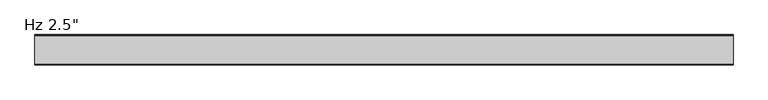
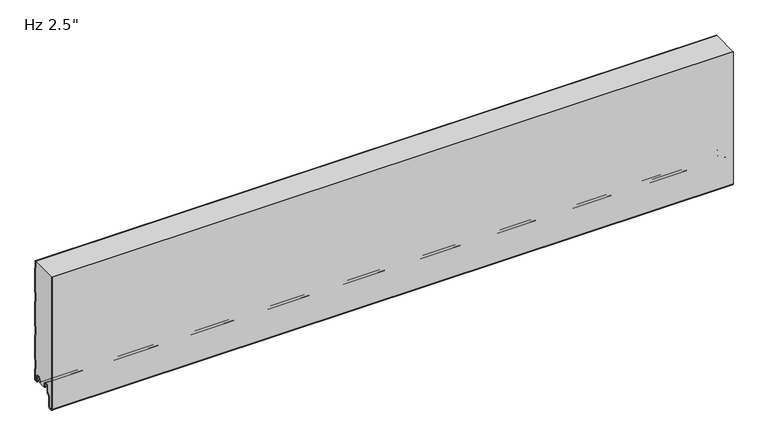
"""IFC4 building model written with IfcOpenShell, lengths in millimetres: plate geometry."""

from ifc_helpers import new_model, si_unit, point, frame, frame_2d, origin, place, context, project, spatial, polyline, circle_curve, trimmed, segment, composite_curve, outline, extrude, source, transform, mapped, element, save
from ifc_brep_helpers import plane_surface, cylinder_surface, revolved_surface, advanced_brep


def plate_86c60f66(model_context):
    return source(origin(), model_context, "Body", "SolidModel", [
        advanced_brep(
        [(-730.0, -17.0015159, 2.0313088), (-730.0, -18.0015191, 1.0313116), (-730.0, -19.0015105, 2.0313088), (-730.0, -19.0015105, 6.0315125), (-730.0, -18.0015159, 6.0315125), (-730.0, -18.0015159, 8.7237223), (-730.0, -14.7015202, 12.023718), (-730.0, -10.301529, 12.023718), (-730.0, -7.0015335, 8.7237225), (-730.0, -7.0015335, -1.6962564), (-730.0, -5.2315393, -3.4662506), (-730.0, -0.9999916, -3.4662506), (-730.0, -0.9999916, 21.034026), (-730.0, -2.2002307, 22.4196686), (-730.0, -2.2002307, 41.7948349), (-730.0, -1.0, 43.1804679), (-730.0, -1.0, 97.2338833), (-730.0, -2.2002307, 98.6195162), (-730.0, -2.2002307, 117.9946825), (-730.0, -1.0, 119.3803155), (-730.0, -1.0, 173.4337309), (-730.0, -2.2002307, 174.8193638), (-730.0, -2.2002307, 194.1945301), (-730.0, -1.0, 195.5801631), (-730.0, -1.0, 249.6335785), (-730.0, -2.2002307, 251.0192114), (-730.0, -2.2002307, 266.4), (-730.0, -1.2002307, 266.4), (-730.0, -1.2002307, 251.3920919), (-730.0, -0.3417885, 250.4010442), (-730.0, 0.0, 249.4844273), (-730.0, 0.0, 195.7293142), (-730.0, -0.3417885, 194.8126973), (-730.0, -1.2002307, 193.8216497), (-730.0, -1.2002307, 175.1922443), (-730.0, -0.3417885, 174.2011966), (-730.0, 0.0, 173.2845797), (-730.0, 0.0, 119.5294666), (-730.0, -0.3417885, 118.6128497), (-730.0, -1.2002307, 117.6218021), (-730.0, -1.2002307, 98.9923967), (-730.0, -0.3417885, 98.001349), (-730.0, 0.0, 97.0847321), (-730.0, 0.0, 43.329619), (-730.0, -0.3417885, 42.4130021), (-730.0, -1.2002307, 41.4219545), (-730.0, -1.2002307, 22.7925491), (-730.0, -0.3417885, 21.8015014), (-730.0, 0.0, 20.8847931), (-730.0, 8.4e-06, -3.0662545), (-730.0, -1.3999878, -4.4662506), (-730.0, -5.2315393, -4.4662506), (-730.0, -8.0015335, -1.6962564), (-730.0, -8.0015335, 8.7237225), (-730.0, -10.301529, 11.023718), (-730.0, -14.7015202, 11.023718), (-730.0, -17.0015159, 8.7237223), (730.0, -17.0015159, 2.0313088), (730.0, -17.0015159, 8.7237223), (730.0, -14.7015202, 11.023718), (730.0, -10.301529, 11.023718), (730.0, -8.0015335, 8.7237225), (730.0, -8.0015335, -1.6962564), (730.0, -5.2315393, -4.4662506), (730.0, -1.3999878, -4.4662506), (730.0, 8.4e-06, -3.0662545), (730.0, 8.4e-06, 20.8848845), (730.0, -0.3417885, 21.8015014), (730.0, -1.2002307, 22.7925491), (730.0, -1.2002307, 41.4219545), (730.0, -0.3417885, 42.4130021), (730.0, 0.0, 43.329619), (730.0, 0.0, 97.0847321), (730.0, -0.3417885, 98.001349), (730.0, -1.2002307, 98.9923967), (730.0, -1.2002307, 117.6218021), (730.0, -0.3417885, 118.6128497), (730.0, 0.0, 119.5294666), (730.0, 0.0, 173.2845797), (730.0, -0.3417885, 174.2011966), (730.0, -1.2002307, 175.1922443), (730.0, -1.2002307, 193.8216497), (730.0, -0.3417885, 194.8126973), (730.0, 0.0, 195.7293142), (730.0, 0.0, 249.4844273), (730.0, -0.3417885, 250.4010442), (730.0, -1.2002307, 251.3920919), (730.0, -1.2002307, 266.4), (730.0, -2.2002307, 266.4), (730.0, -2.2002307, 251.0192114), (730.0, -1.0, 249.6335785), (730.0, -1.0, 195.5801631), (730.0, -2.2002307, 194.1945301), (730.0, -2.2002307, 174.8193638), (730.0, -1.0, 173.4337309), (730.0, -1.0, 119.3803155), (730.0, -2.2002307, 117.9946825), (730.0, -2.2002307, 98.6195162), (730.0, -1.0, 97.2338833), (730.0, -1.0, 43.1804679), (730.0, -2.2002307, 41.7948349), (730.0, -2.2002307, 22.4196686), (730.0, -0.9999916, 21.034026), (730.0, -0.9999916, -3.4662506), (730.0, -5.2315393, -3.4662506), (730.0, -7.0015335, -1.6962564), (730.0, -7.0015335, 8.7237225), (730.0, -10.301529, 12.023718), (730.0, -14.7015202, 12.023718), (730.0, -18.0015159, 8.7237223), (730.0, -18.0015159, 6.0315125), (730.0, -19.0015105, 6.0315125), (730.0, -19.0015105, 2.0313088), (730.0, -18.0015192, 1.0313116)],
        [
            (0, 1, circle_curve(frame((-730.0, -18.0015132, 2.0313088), z_axis=(-1.0, 0.0, 0.0), x_axis=(0.0, 0.0, 1.0)), 0.9999973)),
            (1, 2, circle_curve(frame((-730.0, -18.0015133, 2.0313088), z_axis=(-1.0, 0.0, 0.0), x_axis=(0.0, 0.0, 1.0)), 0.9999972)),
            (2, 3),
            (3, 4),
            (4, 5),
            (5, 6, circle_curve(frame((-730.0, -14.7015202, 8.7237223), z_axis=(-1.0, 0.0, 0.0), x_axis=(0.0, 0.0, 1.0)), 3.2999957)),
            (6, 7),
            (7, 8, circle_curve(frame((-730.0, -10.301529, 8.7237225), z_axis=(-1.0, 0.0, 0.0), x_axis=(0.0, 0.0, 1.0)), 3.2999955)),
            (8, 9),
            (9, 10, circle_curve(frame((-730.0, -5.2315393, -1.6962564), z_axis=(1.0, 0.0, 0.0), x_axis=(0.0, 0.0, 1.0)), 1.7699942)),
            (10, 11),
            (11, 12),
            (12, 13),
            (13, 14),
            (14, 15),
            (15, 16),
            (16, 17),
            (17, 18),
            (18, 19),
            (19, 20),
            (20, 21),
            (21, 22),
            (22, 23),
            (23, 24),
            (24, 25),
            (25, 26),
            (26, 27),
            (27, 28),
            (28, 29),
            (29, 30, circle_curve(frame((-730.0, -1.3999972, 249.4844273), z_axis=(-1.0, 0.0, 0.0), x_axis=(0.0, 0.0, 1.0)), 1.3999972)),
            (30, 31),
            (31, 32, circle_curve(frame((-730.0, -1.3999972, 195.7293142), z_axis=(-1.0, 0.0, 0.0), x_axis=(0.0, 0.0, 1.0)), 1.3999972)),
            (32, 33),
            (33, 34),
            (34, 35),
            (35, 36, circle_curve(frame((-730.0, -1.3999972, 173.2845797), z_axis=(-1.0, 0.0, 0.0), x_axis=(0.0, 0.0, 1.0)), 1.3999972)),
            (36, 37),
            (37, 38, circle_curve(frame((-730.0, -1.3999972, 119.5294666), z_axis=(-1.0, 0.0, 0.0), x_axis=(0.0, 0.0, 1.0)), 1.3999972)),
            (38, 39),
            (39, 40),
            (40, 41),
            (41, 42, circle_curve(frame((-730.0, -1.3999972, 97.0847321), z_axis=(-1.0, 0.0, 0.0), x_axis=(0.0, 0.0, 1.0)), 1.3999972)),
            (42, 43),
            (43, 44, circle_curve(frame((-730.0, -1.3999972, 43.329619), z_axis=(-1.0, 0.0, 0.0), x_axis=(0.0, 0.0, 1.0)), 1.3999972)),
            (44, 45),
            (45, 46),
            (46, 47),
            (47, 48, circle_curve(frame((-730.0, -1.3999972, 20.8848845), z_axis=(-1.0, 0.0, 0.0), x_axis=(0.0, 0.0, 1.0)), 1.3999972)),
            (48, 49),
            (49, 50, circle_curve(frame((-730.0, -1.3999878, -3.0662545), z_axis=(-1.0, 0.0, 0.0), x_axis=(0.0, 0.0, 1.0)), 1.3999962)),
            (50, 51),
            (51, 52, circle_curve(frame((-730.0, -5.2315393, -1.6962564), z_axis=(-1.0, 0.0, 0.0), x_axis=(0.0, 0.0, 1.0)), 2.7699942)),
            (52, 53),
            (53, 54, circle_curve(frame((-730.0, -10.301529, 8.7237225), z_axis=(1.0, 0.0, 0.0), x_axis=(0.0, 0.0, 1.0)), 2.2999955)),
            (54, 55),
            (55, 56, circle_curve(frame((-730.0, -14.7015202, 8.7237223), z_axis=(1.0, 0.0, 0.0), x_axis=(0.0, 0.0, 1.0)), 2.2999957)),
            (56, 0),
            (57, 58),
            (58, 59, circle_curve(frame((730.0, -14.7015202, 8.7237223), z_axis=(-1.0, 0.0, 0.0), x_axis=(0.0, 0.0, 1.0)), 2.2999957)),
            (59, 60),
            (60, 61, circle_curve(frame((730.0, -10.301529, 8.7237225), z_axis=(-1.0, 0.0, 0.0), x_axis=(0.0, 0.0, 1.0)), 2.2999955)),
            (61, 62),
            (62, 63, circle_curve(frame((730.0, -5.2315393, -1.6962564), z_axis=(1.0, 0.0, 0.0), x_axis=(0.0, 0.0, 1.0)), 2.7699942)),
            (63, 64),
            (64, 65, circle_curve(frame((730.0, -1.3999878, -3.0662545), z_axis=(1.0, 0.0, 0.0), x_axis=(0.0, 0.0, 1.0)), 1.3999962)),
            (65, 66),
            (66, 67, circle_curve(frame((730.0, -1.3999972, 20.8848845), z_axis=(1.0, 0.0, 0.0), x_axis=(0.0, 0.0, 1.0)), 1.3999972)),
            (67, 68),
            (68, 69),
            (69, 70),
            (70, 71, circle_curve(frame((730.0, -1.3999972, 43.329619), z_axis=(1.0, 0.0, 0.0), x_axis=(0.0, 0.0, 1.0)), 1.3999972)),
            (71, 72),
            (72, 73, circle_curve(frame((730.0, -1.3999972, 97.0847321), z_axis=(1.0, 0.0, 0.0), x_axis=(0.0, 0.0, 1.0)), 1.3999972)),
            (73, 74),
            (74, 75),
            (75, 76),
            (76, 77, circle_curve(frame((730.0, -1.3999972, 119.5294666), z_axis=(1.0, 0.0, 0.0), x_axis=(0.0, 0.0, 1.0)), 1.3999972)),
            (77, 78),
            (78, 79, circle_curve(frame((730.0, -1.3999972, 173.2845797), z_axis=(1.0, 0.0, 0.0), x_axis=(0.0, 0.0, 1.0)), 1.3999972)),
            (79, 80),
            (80, 81),
            (81, 82),
            (82, 83, circle_curve(frame((730.0, -1.3999972, 195.7293142), z_axis=(1.0, 0.0, 0.0), x_axis=(0.0, 0.0, 1.0)), 1.3999972)),
            (83, 84),
            (84, 85, circle_curve(frame((730.0, -1.3999972, 249.4844273), z_axis=(1.0, 0.0, 0.0), x_axis=(0.0, 0.0, 1.0)), 1.3999972)),
            (85, 86),
            (86, 87),
            (87, 88),
            (88, 89),
            (89, 90),
            (90, 91),
            (91, 92),
            (92, 93),
            (93, 94),
            (94, 95),
            (95, 96),
            (96, 97),
            (97, 98),
            (98, 99),
            (99, 100),
            (100, 101),
            (101, 102),
            (102, 103),
            (103, 104),
            (104, 105, circle_curve(frame((730.0, -5.2315393, -1.6962564), z_axis=(-1.0, 0.0, 0.0), x_axis=(0.0, 0.0, 1.0)), 1.7699942)),
            (105, 106),
            (106, 107, circle_curve(frame((730.0, -10.301529, 8.7237225), z_axis=(1.0, 0.0, 0.0), x_axis=(0.0, 0.0, 1.0)), 3.2999955)),
            (107, 108),
            (108, 109, circle_curve(frame((730.0, -14.7015202, 8.7237223), z_axis=(1.0, 0.0, 0.0), x_axis=(0.0, 0.0, 1.0)), 3.2999957)),
            (109, 110),
            (110, 111),
            (111, 112),
            (112, 113, circle_curve(frame((730.0, -18.0015133, 2.0313088), z_axis=(1.0, 0.0, 0.0), x_axis=(0.0, 0.0, 1.0)), 0.9999972)),
            (113, 57, circle_curve(frame((730.0, -18.0015132, 2.0313088), z_axis=(1.0, 0.0, 0.0), x_axis=(0.0, 0.0, 1.0)), 0.9999973)),
            (26, 88),
            (87, 27),
            (56, 58),
            (57, 0),
            (55, 59),
            (54, 60),
            (53, 61),
            (52, 62),
            (51, 63),
            (50, 64),
            (49, 65),
            (48, 66),
            (47, 67),
            (46, 68),
            (45, 69),
            (44, 70),
            (43, 71),
            (42, 72),
            (41, 73),
            (40, 74),
            (39, 75),
            (38, 76),
            (37, 77),
            (36, 78),
            (19, 95),
            (94, 20),
            (18, 96),
            (17, 97),
            (16, 98),
            (15, 99),
            (14, 100),
            (13, 101),
            (12, 102),
            (11, 103),
            (10, 104),
            (9, 105),
            (8, 106),
            (7, 107),
            (6, 108),
            (5, 109),
            (4, 110),
            (3, 111),
            (2, 112),
            (1, 113),
            (35, 79),
            (34, 80),
            (33, 81),
            (32, 82),
            (31, 83),
            (30, 84),
            (29, 85),
            (28, 86),
            (25, 89),
            (24, 90),
            (23, 91),
            (22, 92),
            (21, 93),
        ],
        [
            plane_surface(frame((-730.0, 0.0, 533.4), z_axis=(-1.0, 0.0, 0.0), x_axis=(0.0, 1.0, 0.0))),
            plane_surface(frame((730.0, 0.0, 533.4), z_axis=(1.0, 0.0, 0.0), x_axis=(0.0, 1.0, 0.0))),
            plane_surface(frame((730.0, 10.0, 266.4), z_axis=(0.0, 0.0, 1.0), x_axis=(-1.0, 0.0, 0.0))),
            plane_surface(frame((-730.0, -17.0015159, 2.0313088), z_axis=(0.0, 1.0, 0.0), x_axis=(1.0, 0.0, 0.0))),
            revolved_surface(polyline([(730.0, -14.7015202, 11.023718), (-730.0, -14.7015202, 11.023718)]), (-730.0, -14.7015202, 8.7237223), (1.0, 0.0, 0.0)),
            plane_surface(frame((-730.0, -14.7015202, 11.023718), z_axis=(0.0, 0.0, -1.0), x_axis=(1.0, 0.0, 0.0))),
            revolved_surface(polyline([(730.0, -10.301529, 11.023717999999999), (-730.0, -10.301529, 11.023717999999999)]), (-730.0, -10.301529, 8.7237225), (1.0, 0.0, 0.0)),
            plane_surface(frame((-730.0, -8.0015335, 8.7237225), z_axis=(0.0, -1.0, 0.0), x_axis=(1.0, 0.0, 0.0))),
            cylinder_surface(frame((-730.0, -5.2315393, -1.6962564), z_axis=(-1.0, 0.0, 0.0), x_axis=(0.0, 0.0, 1.0)), 2.7699942),
            plane_surface(frame((-730.0, -5.2315393, -4.4662506), z_axis=(0.0, 0.0, -1.0), x_axis=(1.0, 0.0, 0.0))),
            cylinder_surface(frame((-730.0, -1.3999878, -3.0662545), z_axis=(-1.0, 0.0, 0.0), x_axis=(0.0, 0.0, 1.0)), 1.3999962),
            plane_surface(frame((-730.0, 8.4e-06, -3.0662545), z_axis=(0.0, 1.0, 0.0), x_axis=(1.0, 0.0, 0.0))),
            cylinder_surface(frame((-730.0, -1.3999972, 20.8848845), z_axis=(-1.0, 0.0, 0.0), x_axis=(0.0, 0.0, 1.0)), 1.3999972),
            plane_surface(frame((-730.0, -0.3417885, 21.8015014), z_axis=(0.0, 0.755864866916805, 0.6547276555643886), x_axis=(1.0, 0.0, 0.0))),
            plane_surface(frame((-730.0, -1.2002307, 32.1072518), z_axis=(0.0, 1.0, 0.0), x_axis=(1.0, 0.0, 0.0))),
            plane_surface(frame((-730.0, -1.2002307, 41.4219545), z_axis=(0.0, 0.755864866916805, -0.6547276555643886), x_axis=(1.0, 0.0, 0.0))),
            cylinder_surface(frame((-730.0, -1.3999972, 43.329619), z_axis=(-1.0, 0.0, 0.0), x_axis=(0.0, 0.0, 1.0)), 1.3999972),
            plane_surface(frame((-730.0, 0.0, 43.329619), z_axis=(0.0, 1.0, 0.0), x_axis=(1.0, 0.0, 0.0))),
            cylinder_surface(frame((-730.0, -1.3999972, 97.0847321), z_axis=(-1.0, 0.0, 0.0), x_axis=(0.0, 0.0, 1.0)), 1.3999972),
            plane_surface(frame((-730.0, -0.3417885, 98.001349), z_axis=(0.0, 0.755864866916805, 0.6547276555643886), x_axis=(1.0, 0.0, 0.0))),
            plane_surface(frame((-730.0, -1.2002307, 108.3070994), z_axis=(0.0, 1.0, 0.0), x_axis=(1.0, 0.0, 0.0))),
            plane_surface(frame((-730.0, -1.2002307, 117.6218021), z_axis=(0.0, 0.755864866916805, -0.6547276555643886), x_axis=(1.0, 0.0, 0.0))),
            cylinder_surface(frame((-730.0, -1.3999972, 119.5294666), z_axis=(-1.0, 0.0, 0.0), x_axis=(0.0, 0.0, 1.0)), 1.3999972),
            plane_surface(frame((-730.0, 0.0, 119.5294666), z_axis=(0.0, 1.0, 0.0), x_axis=(1.0, 0.0, 0.0))),
            plane_surface(frame((-730.0, -1.0, 173.4337309), z_axis=(0.0, -1.0, 0.0), x_axis=(1.0, 0.0, 0.0))),
            plane_surface(frame((-730.0, -1.0, 119.3803155), z_axis=(0.0, -0.755864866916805, 0.6547276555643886), x_axis=(1.0, 0.0, 0.0))),
            plane_surface(frame((-730.0, -2.2002307, 117.9946825), z_axis=(0.0, -1.0, 0.0), x_axis=(1.0, 0.0, 0.0))),
            plane_surface(frame((-730.0, -2.2002307, 98.6195162), z_axis=(0.0, -0.755864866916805, -0.6547276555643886), x_axis=(1.0, 0.0, 0.0))),
            plane_surface(frame((-730.0, -1.0, 97.2338833), z_axis=(0.0, -1.0, 0.0), x_axis=(1.0, 0.0, 0.0))),
            plane_surface(frame((-730.0, -1.0, 43.1804679), z_axis=(0.0, -0.755864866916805, 0.6547276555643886), x_axis=(1.0, 0.0, 0.0))),
            plane_surface(frame((-730.0, -2.2002307, 41.7948349), z_axis=(0.0, -1.0, 0.0), x_axis=(1.0, 0.0, 0.0))),
            plane_surface(frame((-730.0, -2.2002307, 22.4196686), z_axis=(0.0, -0.755864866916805, -0.6547276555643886), x_axis=(1.0, 0.0, 0.0))),
            plane_surface(frame((-730.0, -0.9999916, 21.034026), z_axis=(0.0, -1.0, 0.0), x_axis=(1.0, 0.0, 0.0))),
            plane_surface(frame((-730.0, -0.9999916, -3.4662506), z_axis=(0.0, 0.0, 1.0), x_axis=(1.0, 0.0, 0.0))),
            revolved_surface(polyline([(730.0, -5.2315393, 0.07373779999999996), (-730.0, -5.2315393, 0.07373779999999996)]), (-730.0, -5.2315393, -1.6962564), (1.0, 0.0, 0.0)),
            plane_surface(frame((-730.0, -7.0015335, -1.6962564), z_axis=(0.0, 1.0, 0.0), x_axis=(1.0, 0.0, 0.0))),
            cylinder_surface(frame((-730.0, -10.301529, 8.7237225), z_axis=(-1.0, 0.0, 0.0), x_axis=(0.0, 0.0, 1.0)), 3.2999955),
            plane_surface(frame((-730.0, -10.301529, 12.023718), z_axis=(0.0, 0.0, 1.0), x_axis=(1.0, 0.0, 0.0))),
            cylinder_surface(frame((-730.0, -14.7015202, 8.7237223), z_axis=(-1.0, 0.0, 0.0), x_axis=(0.0, 0.0, 1.0)), 3.2999957),
            plane_surface(frame((-730.0, -18.0015159, 8.7237223), z_axis=(0.0, -1.0, 0.0), x_axis=(1.0, 0.0, 0.0))),
            plane_surface(frame((-730.0, -18.0015159, 6.0315125), z_axis=(0.0, 0.0, 1.0), x_axis=(1.0, 0.0, 0.0))),
            plane_surface(frame((-730.0, -19.0015105, 6.0315125), z_axis=(0.0, -1.0, 0.0), x_axis=(1.0, 0.0, 0.0))),
            cylinder_surface(frame((-730.0, -18.0015133, 2.0313088), z_axis=(-1.0, 0.0, 0.0), x_axis=(0.0, 0.0, 1.0)), 0.9999972),
            cylinder_surface(frame((-730.0, -18.0015132, 2.0313088), z_axis=(-1.0, 0.0, 0.0), x_axis=(0.0, 0.0, 1.0)), 0.9999973),
            cylinder_surface(frame((-730.0, -1.3999972, 173.2845797), z_axis=(-1.0, 0.0, 0.0), x_axis=(0.0, 0.0, 1.0)), 1.3999972),
            plane_surface(frame((-730.0, -0.3417885, 174.2011966), z_axis=(0.0, 0.755864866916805, 0.6547276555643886), x_axis=(1.0, 0.0, 0.0))),
            plane_surface(frame((-730.0, -1.2002307, 184.506947), z_axis=(0.0, 1.0, 0.0), x_axis=(1.0, 0.0, 0.0))),
            plane_surface(frame((-730.0, -1.2002307, 193.8216497), z_axis=(0.0, 0.755864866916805, -0.6547276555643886), x_axis=(1.0, 0.0, 0.0))),
            cylinder_surface(frame((-730.0, -1.3999972, 195.7293142), z_axis=(-1.0, 0.0, 0.0), x_axis=(0.0, 0.0, 1.0)), 1.3999972),
            plane_surface(frame((-730.0, 0.0, 195.7293142), z_axis=(0.0, 1.0, 0.0), x_axis=(1.0, 0.0, 0.0))),
            cylinder_surface(frame((-730.0, -1.3999972, 249.4844273), z_axis=(-1.0, 0.0, 0.0), x_axis=(0.0, 0.0, 1.0)), 1.3999972),
            plane_surface(frame((-730.0, -0.3417885, 250.4010442), z_axis=(0.0, 0.755864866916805, 0.6547276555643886), x_axis=(1.0, 0.0, 0.0))),
            plane_surface(frame((-730.0, -1.2002307, 260.7067946), z_axis=(0.0, 1.0, 0.0), x_axis=(1.0, 0.0, 0.0))),
            plane_surface(frame((-730.0, -2.2002307, 270.3943777), z_axis=(0.0, -1.0, 0.0), x_axis=(1.0, 0.0, 0.0))),
            plane_surface(frame((-730.0, -2.2002307, 251.0192114), z_axis=(0.0, -0.755864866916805, -0.6547276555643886), x_axis=(1.0, 0.0, 0.0))),
            plane_surface(frame((-730.0, -1.0, 249.6335785), z_axis=(0.0, -1.0, 0.0), x_axis=(1.0, 0.0, 0.0))),
            plane_surface(frame((-730.0, -1.0, 195.5801631), z_axis=(0.0, -0.755864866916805, 0.6547276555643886), x_axis=(1.0, 0.0, 0.0))),
            plane_surface(frame((-730.0, -2.2002307, 194.1945301), z_axis=(0.0, -1.0, 0.0), x_axis=(1.0, 0.0, 0.0))),
            plane_surface(frame((-730.0, -2.2002307, 174.8193638), z_axis=(0.0, -0.755864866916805, -0.6547276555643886), x_axis=(1.0, 0.0, 0.0))),
        ],
        [
            (0, [[1, 2, 3, 4, 5, 6, 7, 8, 9, 10, 11, 12, 13, 14, 15, 16, 17, 18, 19, 20, 21, 22, 23, 24, 25, 26, 27, 28, 29, 30, 31, 32, 33, 34, 35, 36, 37, 38, 39, 40, 41, 42, 43, 44, 45, 46, 47, 48, 49, 50, 51, 52, 53, 54, 55, 56, 57]]),
            (1, [[58, 59, 60, 61, 62, 63, 64, 65, 66, 67, 68, 69, 70, 71, 72, 73, 74, 75, 76, 77, 78, 79, 80, 81, 82, 83, 84, 85, 86, 87, 88, 89, 90, 91, 92, 93, 94, 95, 96, 97, 98, 99, 100, 101, 102, 103, 104, 105, 106, 107, 108, 109, 110, 111, 112, 113, 114]]),
            (2, [[115, -88, 116, -27]]),
            (3, [[117, -58, 118, -57]]),
            (4, [[119, -59, -117, -56]]),
            (5, [[120, -60, -119, -55]]),
            (6, [[121, -61, -120, -54]]),
            (7, [[122, -62, -121, -53]]),
            (8, [[123, -63, -122, -52]]),
            (9, [[124, -64, -123, -51]]),
            (10, [[125, -65, -124, -50]]),
            (11, [[126, -66, -125, -49]]),
            (12, [[127, -67, -126, -48]]),
            (13, [[128, -68, -127, -47]]),
            (14, [[129, -69, -128, -46]]),
            (15, [[130, -70, -129, -45]]),
            (16, [[131, -71, -130, -44]]),
            (17, [[132, -72, -131, -43]]),
            (18, [[133, -73, -132, -42]]),
            (19, [[134, -74, -133, -41]]),
            (20, [[135, -75, -134, -40]]),
            (21, [[136, -76, -135, -39]]),
            (22, [[137, -77, -136, -38]]),
            (23, [[138, -78, -137, -37]]),
            (24, [[139, -95, 140, -20]]),
            (25, [[141, -96, -139, -19]]),
            (26, [[142, -97, -141, -18]]),
            (27, [[143, -98, -142, -17]]),
            (28, [[144, -99, -143, -16]]),
            (29, [[145, -100, -144, -15]]),
            (30, [[146, -101, -145, -14]]),
            (31, [[147, -102, -146, -13]]),
            (32, [[148, -103, -147, -12]]),
            (33, [[149, -104, -148, -11]]),
            (34, [[150, -105, -149, -10]]),
            (35, [[151, -106, -150, -9]]),
            (36, [[152, -107, -151, -8]]),
            (37, [[153, -108, -152, -7]]),
            (38, [[154, -109, -153, -6]]),
            (39, [[155, -110, -154, -5]]),
            (40, [[156, -111, -155, -4]]),
            (41, [[157, -112, -156, -3]]),
            (42, [[158, -113, -157, -2]]),
            (43, [[-118, -114, -158, -1]]),
            (44, [[159, -79, -138, -36]]),
            (45, [[160, -80, -159, -35]]),
            (46, [[161, -81, -160, -34]]),
            (47, [[162, -82, -161, -33]]),
            (48, [[163, -83, -162, -32]]),
            (49, [[164, -84, -163, -31]]),
            (50, [[165, -85, -164, -30]]),
            (51, [[166, -86, -165, -29]]),
            (52, [[-28, -116, -87, -166]]),
            (53, [[-89, -115, -26, 167]]),
            (54, [[168, -90, -167, -25]]),
            (55, [[169, -91, -168, -24]]),
            (56, [[170, -92, -169, -23]]),
            (57, [[171, -93, -170, -22]]),
            (58, [[-140, -94, -171, -21]]),
        ],
    ),
        extrude(outline(composite_curve([segment(trimmed(circle_curve(frame_2d((-59.9297607, -32.4521176)), 3.5702393), [point((-59.6184903, -36.008762))], [point((-63.5, -32.4521176))], False, "CARTESIAN"), True, "CONTINUOUS"), segment(polyline([(-63.5, -32.4521176), (-63.5, 266.4), (-62.4993606, 266.4), (-62.4993606, -32.509446)]), True, "CONTINUOUS"), segment(trimmed(circle_curve(frame_2d((-59.9297607, -32.4521176)), 2.5702393), [point((-62.4993606, -32.509446))], [point((-59.7056751, -35.0125699))], True, "CARTESIAN"), True, "CONTINUOUS"), segment(polyline([(-59.7056751, -35.0125699), (-54.7238542, -34.5765709)]), True, "CONTINUOUS"), segment(trimmed(circle_curve(frame_2d((-55.2052448, -31.9198392)), 2.6999926), [point((-54.7238542, -34.5765709))], [point((-52.5052522, -31.9198392))], True, "CARTESIAN"), True, "CONTINUOUS"), segment(polyline([(-52.5052522, -31.9198392), (-52.5052522, -9.8247096), (-47.0031811, -4.3226385)]), True, "CONTINUOUS"), segment(trimmed(circle_curve(frame_2d((-48.2052588, -3.1205608)), 1.6999946), [point((-47.0031811, -4.3226385))], [point((-46.5052642, -3.1205608))], True, "CARTESIAN"), True, "CONTINUOUS"), segment(polyline([(-46.5052642, -3.1205608), (-46.5052642, 8.6903283)]), True, "CONTINUOUS"), segment(trimmed(circle_curve(frame_2d((-43.1552689, 8.6903283)), 3.3499953), [point((-46.5052642, 8.6903283))], [point((-43.1552689, 12.0403236))], False, "CARTESIAN"), True, "CONTINUOUS"), segment(polyline([(-43.1552689, 12.0403236), (-38.7552777, 12.0403236)]), True, "CONTINUOUS"), segment(trimmed(circle_curve(frame_2d((-38.7552777, 8.6903283)), 3.3499953), [point((-38.7552777, 12.0403236))], [point((-35.4052824, 8.6903283))], False, "CARTESIAN"), True, "CONTINUOUS"), segment(polyline([(-35.4052824, 8.6903283), (-35.4052824, 5.9912173), (-34.0068035, 5.9912173), (-34.0068035, 2.2328239)]), True, "CONTINUOUS"), segment(trimmed(circle_curve(frame_2d((-35.2068002, 2.2313092)), 1.1999976), [point((-34.0068035, 2.2328239))], [point((-35.1762782, 1.0316999))], False, "CARTESIAN"), True, "CONTINUOUS"), segment(trimmed(circle_curve(frame_2d((-35.2068002, 2.2313092)), 1.1999976), [point((-35.1762782, 1.0316999))], [point((-36.4052824, 2.1710221))], False, "CARTESIAN"), True, "CONTINUOUS"), segment(polyline([(-36.4052824, 2.1710221), (-36.4052824, 8.6903283)]), True, "CONTINUOUS"), segment(trimmed(circle_curve(frame_2d((-38.7552777, 8.6903283)), 2.3499953), [point((-36.4052824, 8.6903283))], [point((-38.7552777, 11.0403236))], True, "CARTESIAN"), True, "CONTINUOUS"), segment(polyline([(-38.7552777, 11.0403236), (-43.1552689, 11.0403236)]), True, "CONTINUOUS"), segment(trimmed(circle_curve(frame_2d((-43.1552689, 8.6903283)), 2.3499953), [point((-43.1552689, 11.0403236))], [point((-45.5052642, 8.6903283))], True, "CARTESIAN"), True, "CONTINUOUS"), segment(polyline([(-45.5052642, 8.6903283), (-45.5052642, -3.1205608)]), True, "CONTINUOUS"), segment(trimmed(circle_curve(frame_2d((-48.2052588, -3.1205608)), 2.6999946), [point((-45.5052642, -3.1205608))], [point((-46.2960743, -5.0297453))], False, "CARTESIAN"), True, "CONTINUOUS"), segment(polyline([(-46.2960743, -5.0297453), (-51.1244918, -9.8581627)]), True, "CONTINUOUS"), segment(trimmed(circle_curve(frame_2d((-50.2052548, -10.7773997)), 1.2999974), [point((-51.1244918, -9.8581627))], [point((-51.5052522, -10.7773997))], True, "CARTESIAN"), True, "CONTINUOUS"), segment(polyline([(-51.5052522, -10.7773997), (-51.5052522, -31.9198392)]), True, "CONTINUOUS"), segment(trimmed(circle_curve(frame_2d((-55.2052448, -31.9198392)), 3.6999926), [point((-51.5052522, -31.9198392))], [point((-54.5944437, -35.5690675))], False, "CARTESIAN"), True, "CONTINUOUS"), segment(polyline([(-54.5944437, -35.5690675), (-59.6184903, -36.008762)]), True, "CONTINUOUS")], self_intersect=False)), frame((-730.0, 0.0, 0.0), z_axis=(1.0, 0.0, 0.0), x_axis=(0.0, 1.0, 0.0)), (0.0, 0.0, 1.0), 1460.0),
        advanced_brep(
        [(-730.0, -35.170875, 1.0316999), (-730.0, -34.0014003, 2.2328239), (-730.0, -34.0014003, 5.9912173), (-730.0, -35.3998791, 5.9912173), (-730.0, -35.3998791, 8.6903283), (-730.0, -38.7498744, 12.0403236), (-730.0, -43.1498656, 12.0403236), (-730.0, -46.4998609, 8.6903283), (-730.0, -46.4998609, -3.1205608), (-730.0, -46.9977778, -4.3226385), (-730.0, -52.4998489, -9.8247096), (-730.0, -52.4998489, -31.9198392), (-730.0, -54.7184509, -34.5765709), (-730.0, -59.7002718, -35.0125699), (-730.0, -62.4945967, -32.4521176), (-730.0, -62.5, 266.4), (-730.0, -2.2002307, 266.4), (-730.0, -2.2002307, 251.0192115), (-730.0, -1.0, 249.6335785), (-730.0, -1.0, 195.5801631), (-730.0, -2.2002307, 194.1945302), (-730.0, -2.2002307, 174.8193639), (-730.0, -1.0, 173.4337309), (-730.0, -1.0, 119.3803155), (-730.0, -2.2002307, 117.9946826), (-730.0, -2.2002307, 98.6195163), (-730.0, -1.0, 97.2338833), (-730.0, -1.0, 43.1804679), (-730.0, -2.2002307, 41.794835), (-730.0, -2.2002307, 22.4196687), (-730.0, -0.9999916, 21.034026), (-730.0, -0.9999916, -3.4662506), (-730.0, -5.2315389, -3.4662506), (-730.0, -7.0015331, -1.6962564), (-730.0, -7.0015331, 8.7237222), (-730.0, -10.301529, 12.023718), (-730.0, -14.7015202, 12.023718), (-730.0, -18.0015159, 8.7237223), (-730.0, -18.0015159, 6.0315125), (-730.0, -19.0015105, 6.0315125), (-730.0, -19.0015105, 2.0313089), (-730.0, -18.0015192, 1.0313117), (-730.0, -19.0328308, 0.0), (-730.0, -34.1391751, 0.0), (730.0, -35.170875, 1.0316999), (730.0, -34.1391751, 0.0), (730.0, -19.0328308, 0.0), (730.0, -18.0015192, 1.0313117), (730.0, -19.0015105, 2.0313089), (730.0, -19.0015105, 6.0315125), (730.0, -18.0015159, 6.0315125), (730.0, -18.0015159, 8.7237223), (730.0, -14.7015202, 12.023718), (730.0, -10.301529, 12.023718), (730.0, -7.0015331, 8.7237222), (730.0, -7.0015331, -1.6962564), (730.0, -5.2315389, -3.4662506), (730.0, -0.9999916, -3.4662506), (730.0, -0.9999916, 21.034026), (730.0, -2.2002307, 22.4196687), (730.0, -2.2002307, 41.794835), (730.0, -1.0, 43.1804679), (730.0, -1.0, 97.2338833), (730.0, -2.2002307, 98.6195163), (730.0, -2.2002307, 117.9946826), (730.0, -1.0, 119.3803155), (730.0, -1.0, 173.4337309), (730.0, -2.2002307, 174.8193639), (730.0, -2.2002307, 194.1945302), (730.0, -1.0, 195.5801631), (730.0, -1.0, 249.6335785), (730.0, -2.2002307, 251.0192115), (730.0, -2.2002307, 266.4), (730.0, -62.5, 266.4), (730.0, -62.5, -32.4521176), (730.0, -59.7002718, -35.0125699), (730.0, -54.7184509, -34.5765709), (730.0, -52.4998489, -31.9198392), (730.0, -52.4998489, -9.8247096), (730.0, -46.9977778, -4.3226385), (730.0, -46.4998609, -3.1205608), (730.0, -46.4998609, 8.6903283), (730.0, -43.1498656, 12.0403236), (730.0, -38.7498744, 12.0403236), (730.0, -35.3998791, 8.6903283), (730.0, -35.3998791, 5.9912173), (730.0, -34.0014003, 5.9912173), (730.0, -34.0014003, 2.2328239)],
        [
            (0, 1, circle_curve(frame((-730.0, -35.2013969, 2.2313092), z_axis=(1.0, 0.0, 0.0), x_axis=(0.0, 0.0, -1.0)), 1.1999976)),
            (1, 2),
            (2, 3),
            (3, 4),
            (4, 5, circle_curve(frame((-730.0, -38.7498744, 8.6903283), z_axis=(1.0, 0.0, 0.0), x_axis=(0.0, 0.0, -1.0)), 3.3499953)),
            (5, 6),
            (6, 7, circle_curve(frame((-730.0, -43.1498656, 8.6903283), z_axis=(1.0, 0.0, 0.0), x_axis=(0.0, 0.0, -1.0)), 3.3499953)),
            (7, 8),
            (8, 9, circle_curve(frame((-730.0, -48.1998555, -3.1205608), z_axis=(-1.0, 0.0, 0.0), x_axis=(0.0, 0.0, -1.0)), 1.6999946)),
            (9, 10),
            (10, 11),
            (11, 12, circle_curve(frame((-730.0, -55.1998415, -31.9198392), z_axis=(-1.0, 0.0, 0.0), x_axis=(0.0, 0.0, -1.0)), 2.6999926)),
            (12, 13),
            (13, 14, circle_curve(frame((-730.0, -59.9243575, -32.4521176), z_axis=(-1.0, 0.0, 0.0), x_axis=(0.0, 0.0, -1.0)), 2.5702393)),
            (14, 15),
            (15, 16),
            (16, 17),
            (17, 18),
            (18, 19),
            (19, 20),
            (20, 21),
            (21, 22),
            (22, 23),
            (23, 24),
            (24, 25),
            (25, 26),
            (26, 27),
            (27, 28),
            (28, 29),
            (29, 30),
            (30, 31),
            (31, 32),
            (32, 33, circle_curve(frame((-730.0, -5.2315389, -1.6962564), z_axis=(-1.0, 0.0, 0.0), x_axis=(0.0, 0.0, -1.0)), 1.7699942)),
            (33, 34),
            (34, 35, circle_curve(frame((-730.0, -10.301529, 8.7237222), z_axis=(1.0, 0.0, 0.0), x_axis=(0.0, 0.0, -1.0)), 3.2999959)),
            (35, 36),
            (36, 37, circle_curve(frame((-730.0, -14.7015202, 8.7237223), z_axis=(1.0, 0.0, 0.0), x_axis=(0.0, 0.0, -1.0)), 3.2999957)),
            (37, 38),
            (38, 39),
            (39, 40),
            (40, 41, circle_curve(frame((-730.0, -18.0015133, 2.0313089), z_axis=(1.0, 0.0, 0.0), x_axis=(0.0, 0.0, -1.0)), 0.9999972)),
            (41, 42),
            (42, 43),
            (43, 0),
            (44, 45),
            (45, 46),
            (46, 47),
            (47, 48, circle_curve(frame((730.0, -18.0015133, 2.0313089), z_axis=(-1.0, 0.0, 0.0), x_axis=(0.0, 0.0, -1.0)), 0.9999972)),
            (48, 49),
            (49, 50),
            (50, 51),
            (51, 52, circle_curve(frame((730.0, -14.7015202, 8.7237223), z_axis=(-1.0, 0.0, 0.0), x_axis=(0.0, 0.0, -1.0)), 3.2999957)),
            (52, 53),
            (53, 54, circle_curve(frame((730.0, -10.301529, 8.7237222), z_axis=(-1.0, 0.0, 0.0), x_axis=(0.0, 0.0, -1.0)), 3.2999959)),
            (54, 55),
            (55, 56, circle_curve(frame((730.0, -5.2315389, -1.6962564), z_axis=(1.0, 0.0, 0.0), x_axis=(0.0, 0.0, -1.0)), 1.7699942)),
            (56, 57),
            (57, 58),
            (58, 59),
            (59, 60),
            (60, 61),
            (61, 62),
            (62, 63),
            (63, 64),
            (64, 65),
            (65, 66),
            (66, 67),
            (67, 68),
            (68, 69),
            (69, 70),
            (70, 71),
            (71, 72),
            (72, 73),
            (73, 74),
            (74, 75, circle_curve(frame((730.0, -59.9243575, -32.4521176), z_axis=(1.0, 0.0, 0.0), x_axis=(0.0, 0.0, -1.0)), 2.5702393)),
            (75, 76),
            (76, 77, circle_curve(frame((730.0, -55.1998415, -31.9198392), z_axis=(1.0, 0.0, 0.0), x_axis=(0.0, 0.0, -1.0)), 2.6999926)),
            (77, 78),
            (78, 79),
            (79, 80, circle_curve(frame((730.0, -48.1998555, -3.1205608), z_axis=(1.0, 0.0, 0.0), x_axis=(0.0, 0.0, -1.0)), 1.6999946)),
            (80, 81),
            (81, 82, circle_curve(frame((730.0, -43.1498656, 8.6903283), z_axis=(-1.0, 0.0, 0.0), x_axis=(0.0, 0.0, -1.0)), 3.3499953)),
            (82, 83),
            (83, 84, circle_curve(frame((730.0, -38.7498744, 8.6903283), z_axis=(-1.0, 0.0, 0.0), x_axis=(0.0, 0.0, -1.0)), 3.3499953)),
            (84, 85),
            (85, 86),
            (86, 87),
            (87, 44, circle_curve(frame((730.0, -35.2013969, 2.2313092), z_axis=(-1.0, 0.0, 0.0), x_axis=(0.0, 0.0, -1.0)), 1.1999976)),
            (43, 45),
            (44, 0),
            (42, 46),
            (73, 15),
            (14, 74),
            (13, 75),
            (12, 76),
            (11, 77),
            (10, 78),
            (9, 79),
            (8, 80),
            (7, 81),
            (6, 82),
            (5, 83),
            (4, 84),
            (3, 85),
            (2, 86),
            (1, 87),
            (72, 16),
            (41, 47),
            (40, 48),
            (39, 49),
            (38, 50),
            (37, 51),
            (36, 52),
            (35, 53),
            (34, 54),
            (33, 55),
            (32, 56),
            (31, 57),
            (30, 58),
            (29, 59),
            (28, 60),
            (27, 61),
            (26, 62),
            (25, 63),
            (24, 64),
            (23, 65),
            (22, 66),
            (21, 67),
            (20, 68),
            (19, 69),
            (18, 70),
            (17, 71),
        ],
        [
            plane_surface(frame((-730.0, -62.5, 533.4), z_axis=(-1.0, 0.0, 0.0), x_axis=(0.0, -1.0, 0.0))),
            plane_surface(frame((730.0, -62.5, 533.4), z_axis=(1.0, 0.0, 0.0), x_axis=(0.0, -1.0, 0.0))),
            plane_surface(frame((-730.0, -35.170875, 1.0316999), z_axis=(0.0, -0.7071067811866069, -0.7071067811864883), x_axis=(1.0, 0.0, 0.0))),
            plane_surface(frame((-730.0, -34.1391751, 0.0), z_axis=(0.0, 0.0, -1.0), x_axis=(1.0, 0.0, 0.0))),
            plane_surface(frame((-730.0, -62.5, 1024.665622), z_axis=(0.0, -1.0, 0.0), x_axis=(1.0, 0.0, 0.0))),
            cylinder_surface(frame((-730.0, -59.9243575, -32.4521176), z_axis=(-1.0, 0.0, 0.0), x_axis=(0.0, 0.0, -1.0)), 2.5702393),
            plane_surface(frame((-730.0, -59.7002718, -35.0125699), z_axis=(0.0, 0.08718474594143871, -0.9961921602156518), x_axis=(1.0, 0.0, 0.0))),
            cylinder_surface(frame((-730.0, -55.1998415, -31.9198392), z_axis=(-1.0, 0.0, 0.0), x_axis=(0.0, 0.0, -1.0)), 2.6999926),
            plane_surface(frame((-730.0, -52.4998489, -31.9198392), z_axis=(0.0, 1.0, 0.0), x_axis=(1.0, 0.0, 0.0))),
            plane_surface(frame((-730.0, -52.4998489, -9.8247096), z_axis=(0.0, 0.7071067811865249, -0.7071067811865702), x_axis=(1.0, 0.0, 0.0))),
            cylinder_surface(frame((-730.0, -48.1998555, -3.1205608), z_axis=(-1.0, 0.0, 0.0), x_axis=(0.0, 0.0, -1.0)), 1.6999946),
            plane_surface(frame((-730.0, -46.4998609, -3.1205608), z_axis=(0.0, 1.0, 0.0), x_axis=(1.0, 0.0, 0.0))),
            revolved_surface(polyline([(730.0, -43.1498656, 5.340332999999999), (-730.0, -43.1498656, 5.340332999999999)]), (-730.0, -43.1498656, 8.6903283), (1.0, 0.0, 0.0)),
            plane_surface(frame((-730.0, -43.1498656, 12.0403236), z_axis=(0.0, 0.0, -1.0), x_axis=(1.0, 0.0, 0.0))),
            revolved_surface(polyline([(730.0, -38.7498744, 5.340332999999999), (-730.0, -38.7498744, 5.340332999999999)]), (-730.0, -38.7498744, 8.6903283), (1.0, 0.0, 0.0)),
            plane_surface(frame((-730.0, -35.3998791, 8.6903283), z_axis=(0.0, -1.0, 0.0), x_axis=(1.0, 0.0, 0.0))),
            plane_surface(frame((-730.0, -35.3998791, 5.9912173), z_axis=(0.0, 0.0, -1.0), x_axis=(1.0, 0.0, 0.0))),
            plane_surface(frame((-730.0, -34.0014003, 5.9912173), z_axis=(0.0, -1.0, 0.0), x_axis=(1.0, 0.0, 0.0))),
            revolved_surface(polyline([(730.0, -35.2013969, 1.0313116), (-730.0, -35.2013969, 1.0313116)]), (-730.0, -35.2013969, 2.2313092), (1.0, 0.0, 0.0)),
            plane_surface(frame((730.0, 10.0, 266.4), z_axis=(0.0, 0.0, 1.0), x_axis=(-1.0, 0.0, 0.0))),
            plane_surface(frame((-730.0, -19.0328308, 0.0), z_axis=(0.0, 0.7071067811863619, -0.7071067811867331), x_axis=(1.0, 0.0, 0.0))),
            revolved_surface(polyline([(730.0, -18.0015133, 1.0313116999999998), (-730.0, -18.0015133, 1.0313116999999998)]), (-730.0, -18.0015133, 2.0313089), (1.0, 0.0, 0.0)),
            plane_surface(frame((-730.0, -19.0015105, 2.0313089), z_axis=(0.0, 1.0, 0.0), x_axis=(1.0, 0.0, 0.0))),
            plane_surface(frame((-730.0, -19.0015105, 6.0315125), z_axis=(0.0, 0.0, -1.0), x_axis=(1.0, 0.0, 0.0))),
            plane_surface(frame((-730.0, -18.0015159, 6.0315125), z_axis=(0.0, 1.0, 0.0), x_axis=(1.0, 0.0, 0.0))),
            revolved_surface(polyline([(730.0, -14.7015202, 5.4237266), (-730.0, -14.7015202, 5.4237266)]), (-730.0, -14.7015202, 8.7237223), (1.0, 0.0, 0.0)),
            plane_surface(frame((-730.0, -14.7015202, 12.023718), z_axis=(0.0, 0.0, -1.0), x_axis=(1.0, 0.0, 0.0))),
            revolved_surface(polyline([(730.0, -10.301529, 5.423726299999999), (-730.0, -10.301529, 5.423726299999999)]), (-730.0, -10.301529, 8.7237222), (1.0, 0.0, 0.0)),
            plane_surface(frame((-730.0, -7.0015331, 8.7237222), z_axis=(0.0, -1.0, 0.0), x_axis=(1.0, 0.0, 0.0))),
            cylinder_surface(frame((-730.0, -5.2315389, -1.6962564), z_axis=(-1.0, 0.0, 0.0), x_axis=(0.0, 0.0, -1.0)), 1.7699942),
            plane_surface(frame((-730.0, -5.2315389, -3.4662506), z_axis=(0.0, 0.0, -1.0), x_axis=(1.0, 0.0, 0.0))),
            plane_surface(frame((-730.0, -0.9999916, -3.4662506), z_axis=(0.0, 1.0, 0.0), x_axis=(1.0, 0.0, 0.0))),
            plane_surface(frame((-730.0, -0.9999916, 21.034026), z_axis=(0.0, 0.7558648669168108, 0.6547276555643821), x_axis=(1.0, 0.0, 0.0))),
            plane_surface(frame((-730.0, -2.2002307, 22.4196687), z_axis=(0.0, 1.0, 0.0), x_axis=(1.0, 0.0, 0.0))),
            plane_surface(frame((-730.0, -2.2002307, 41.794835), z_axis=(0.0, 0.7558648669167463, -0.6547276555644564), x_axis=(1.0, 0.0, 0.0))),
            plane_surface(frame((-730.0, -1.0, 43.1804679), z_axis=(0.0, 1.0, 0.0), x_axis=(1.0, 0.0, 0.0))),
            plane_surface(frame((-730.0, -1.0, 97.2338833), z_axis=(0.0, 0.7558648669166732, 0.6547276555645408), x_axis=(1.0, 0.0, 0.0))),
            plane_surface(frame((-730.0, -2.2002307, 98.6195163), z_axis=(0.0, 1.0, 0.0), x_axis=(1.0, 0.0, 0.0))),
            plane_surface(frame((-730.0, -2.2002307, 117.9946826), z_axis=(0.0, 0.7558648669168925, -0.6547276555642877), x_axis=(1.0, 0.0, 0.0))),
            plane_surface(frame((-730.0, -1.0, 119.3803155), z_axis=(0.0, 1.0, 0.0), x_axis=(1.0, 0.0, 0.0))),
            plane_surface(frame((-730.0, -1.0, 173.4337309), z_axis=(0.0, 0.7558648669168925, 0.6547276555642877), x_axis=(1.0, 0.0, 0.0))),
            plane_surface(frame((-730.0, -2.2002307, 174.8193639), z_axis=(0.0, 1.0, 0.0), x_axis=(1.0, 0.0, 0.0))),
            plane_surface(frame((-730.0, -2.2002307, 194.1945302), z_axis=(0.0, 0.7558648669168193, -0.6547276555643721), x_axis=(1.0, 0.0, 0.0))),
            plane_surface(frame((-730.0, -1.0, 195.5801631), z_axis=(0.0, 1.0, 0.0), x_axis=(1.0, 0.0, 0.0))),
            plane_surface(frame((-730.0, -1.0, 249.6335785), z_axis=(0.0, 0.7558648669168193, 0.6547276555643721), x_axis=(1.0, 0.0, 0.0))),
            plane_surface(frame((-730.0, -2.2002307, 251.0192115), z_axis=(0.0, 1.0, 0.0), x_axis=(1.0, 0.0, 0.0))),
        ],
        [
            (0, [[1, 2, 3, 4, 5, 6, 7, 8, 9, 10, 11, 12, 13, 14, 15, 16, 17, 18, 19, 20, 21, 22, 23, 24, 25, 26, 27, 28, 29, 30, 31, 32, 33, 34, 35, 36, 37, 38, 39, 40, 41, 42, 43, 44]]),
            (1, [[45, 46, 47, 48, 49, 50, 51, 52, 53, 54, 55, 56, 57, 58, 59, 60, 61, 62, 63, 64, 65, 66, 67, 68, 69, 70, 71, 72, 73, 74, 75, 76, 77, 78, 79, 80, 81, 82, 83, 84, 85, 86, 87, 88]]),
            (2, [[89, -45, 90, -44]]),
            (3, [[-43, 91, -46, -89]]),
            (4, [[-74, 92, -15, 93]]),
            (5, [[94, -75, -93, -14]]),
            (6, [[95, -76, -94, -13]]),
            (7, [[96, -77, -95, -12]]),
            (8, [[97, -78, -96, -11]]),
            (9, [[98, -79, -97, -10]]),
            (10, [[99, -80, -98, -9]]),
            (11, [[100, -81, -99, -8]]),
            (12, [[101, -82, -100, -7]]),
            (13, [[102, -83, -101, -6]]),
            (14, [[103, -84, -102, -5]]),
            (15, [[104, -85, -103, -4]]),
            (16, [[105, -86, -104, -3]]),
            (17, [[106, -87, -105, -2]]),
            (18, [[-90, -88, -106, -1]]),
            (19, [[-92, -73, 107, -16]]),
            (20, [[108, -47, -91, -42]]),
            (21, [[109, -48, -108, -41]]),
            (22, [[110, -49, -109, -40]]),
            (23, [[111, -50, -110, -39]]),
            (24, [[112, -51, -111, -38]]),
            (25, [[113, -52, -112, -37]]),
            (26, [[114, -53, -113, -36]]),
            (27, [[115, -54, -114, -35]]),
            (28, [[116, -55, -115, -34]]),
            (29, [[117, -56, -116, -33]]),
            (30, [[118, -57, -117, -32]]),
            (31, [[119, -58, -118, -31]]),
            (32, [[120, -59, -119, -30]]),
            (33, [[121, -60, -120, -29]]),
            (34, [[122, -61, -121, -28]]),
            (35, [[123, -62, -122, -27]]),
            (36, [[124, -63, -123, -26]]),
            (37, [[125, -64, -124, -25]]),
            (38, [[126, -65, -125, -24]]),
            (39, [[127, -66, -126, -23]]),
            (40, [[128, -67, -127, -22]]),
            (41, [[129, -68, -128, -21]]),
            (42, [[130, -69, -129, -20]]),
            (43, [[131, -70, -130, -19]]),
            (44, [[132, -71, -131, -18]]),
            (45, [[-17, -107, -72, -132]]),
        ],
    ),
    ])


if __name__ == "__main__":
    model = new_model("IFC4")
    model_context = context("Model", 3, world=origin())
    ifc_project = project(units=[si_unit("LENGTHUNIT", "METRE", prefix="MILLI")], contexts=[model_context])
    site = spatial("IfcSite", under=ifc_project)
    building = spatial("IfcBuilding", under=site)
    placement = place(None, origin())
    plate_shape = plate_86c60f66(model_context)
    element("IfcPlate", 1, ObjectType="KIP-42-S-O-KP-R19-CP-Hz-FL_SL : Hz 2.5\"", at=placement, inside=building, context=model_context, shape_type="MappedRepresentation", body=[
        mapped(plate_shape, transform((0.0, 0.0, 0.0), x_axis=(1.0, 0.0, 0.0), y_axis=(0.0, 1.0, 0.0), z_axis=(0.0, 0.0, 1.0))),
    ])
    save(model, "model.ifc")
